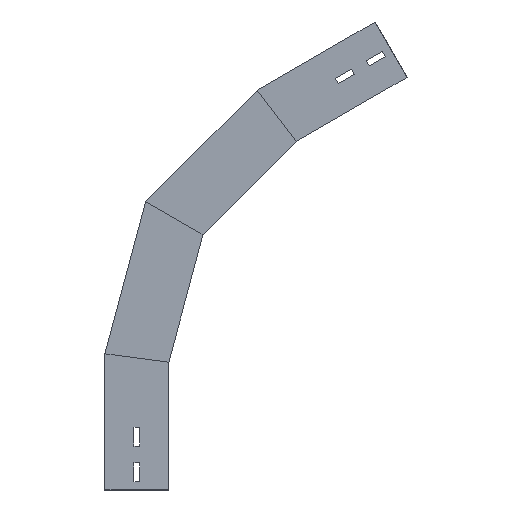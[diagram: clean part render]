
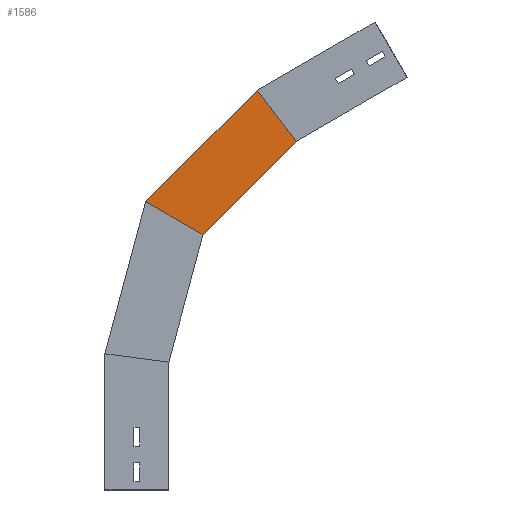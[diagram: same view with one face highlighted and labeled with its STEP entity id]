
A CAD part, left-side view. The second image highlights one B-rep face of the part: STEP entity #1586.
In plain terms, the highlighted planar face has unit normal (-1, 0, 0) as drawn and (1, 0, 0) by its records, which use the part's own axes.
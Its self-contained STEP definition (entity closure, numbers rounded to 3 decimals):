
#39 = DIRECTION ( 'NONE',  ( 0., -0.259, 0.966 ) ) ;
#168 = LINE ( 'NONE', #1064, #1027 ) ;
#169 = CARTESIAN_POINT ( 'NONE',  ( 0., -19.411, 147.444 ) ) ;
#212 = VERTEX_POINT ( 'NONE', #1013 ) ;
#225 = AXIS2_PLACEMENT_3D ( 'NONE', #420, #1188, #540 ) ;
#231 = VECTOR ( 'NONE', #1314, 1000. ) ;
#264 = LINE ( 'NONE', #1121, #693 ) ;
#282 = CARTESIAN_POINT ( 'NONE',  ( 0., -40.117, 299.719 ) ) ;
#295 = ORIENTED_EDGE ( 'NONE', *, *, #598, .T. ) ;
#420 = CARTESIAN_POINT ( 'NONE',  ( 0., 2.837, 139.412 ) ) ;
#425 = DIRECTION ( 'NONE',  ( 0., -0.259, 0.966 ) ) ;
#427 = EDGE_CURVE ( 'NONE', #877, #212, #1193, .T. ) ;
#540 = DIRECTION ( 'NONE',  ( 0., 0., -1. ) ) ;
#553 = FACE_OUTER_BOUND ( 'NONE', #692, .T. ) ;
#598 = EDGE_CURVE ( 'NONE', #1473, #773, #1456, .T. ) ;
#674 = PLANE ( 'NONE',  #225 ) ;
#692 = EDGE_LOOP ( 'NONE', ( #1385, #295, #704, #1552 ) ) ;
#693 = VECTOR ( 'NONE', #425, 1000. ) ;
#694 = CARTESIAN_POINT ( 'NONE',  ( 0., 27.126, 338.541 ) ) ;
#704 = ORIENTED_EDGE ( 'NONE', *, *, #1550, .F. ) ;
#773 = VERTEX_POINT ( 'NONE', #282 ) ;
#776 = VECTOR ( 'NONE', #1323, 1000. ) ;
#877 = VERTEX_POINT ( 'NONE', #1096 ) ;
#906 = EDGE_CURVE ( 'NONE', #877, #1473, #264, .T. ) ;
#1013 = CARTESIAN_POINT ( 'NONE',  ( 0., 0., 150. ) ) ;
#1027 = VECTOR ( 'NONE', #39, 1000. ) ;
#1064 = CARTESIAN_POINT ( 'NONE',  ( 0., 2.837, 139.412 ) ) ;
#1096 = CARTESIAN_POINT ( 'NONE',  ( 0., 75., 159.874 ) ) ;
#1121 = CARTESIAN_POINT ( 'NONE',  ( 0., 75.281, 158.824 ) ) ;
#1171 = CARTESIAN_POINT ( 'NONE',  ( 0., -77.316, 278.242 ) ) ;
#1188 = DIRECTION ( 'NONE',  ( 1., 0., 0. ) ) ;
#1193 = LINE ( 'NONE', #169, #231 ) ;
#1314 = DIRECTION ( 'NONE',  ( 0., -0.991, -0.131 ) ) ;
#1323 = DIRECTION ( 'NONE',  ( 0., -0.866, -0.5 ) ) ;
#1385 = ORIENTED_EDGE ( 'NONE', *, *, #906, .T. ) ;
#1456 = LINE ( 'NONE', #1171, #776 ) ;
#1473 = VERTEX_POINT ( 'NONE', #694 ) ;
#1550 = EDGE_CURVE ( 'NONE', #212, #773, #168, .T. ) ;
#1552 = ORIENTED_EDGE ( 'NONE', *, *, #427, .F. ) ;
#1586 = ADVANCED_FACE ( 'NONE', ( #553 ), #674, .T. ) ;
